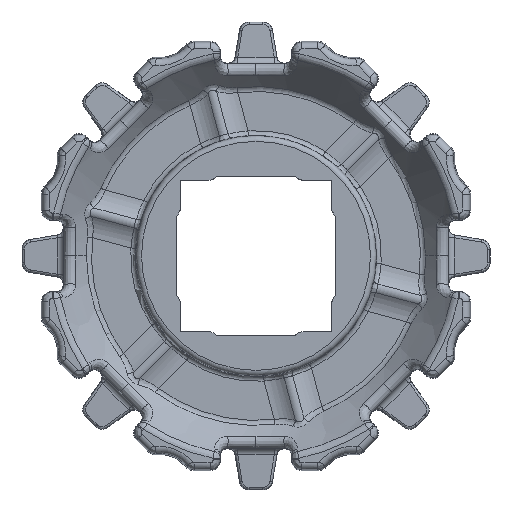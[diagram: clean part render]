
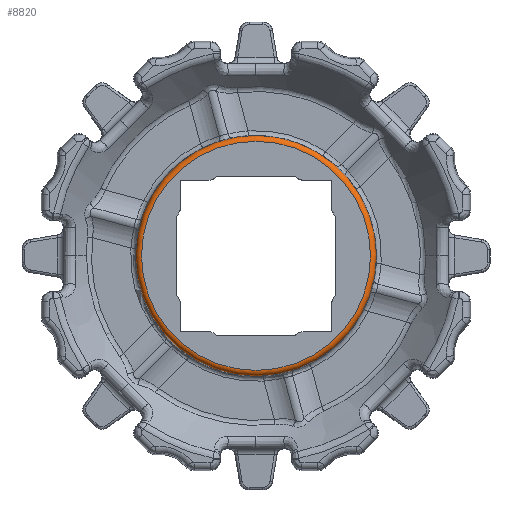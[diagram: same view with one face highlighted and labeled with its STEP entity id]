
A CAD part, top view. The second image highlights one B-rep face of the part: STEP entity #8820.
In plain terms, the highlighted toroidal (fillet/blend) face has major radius 30.642 mm and minor radius 1.5 mm.
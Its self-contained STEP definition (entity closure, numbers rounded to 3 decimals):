
#6727=FACE_BOUND('',#10735,.T.);
#6728=FACE_BOUND('',#10736,.T.);
#7520=TOROIDAL_SURFACE('',#22169,30.642,1.5);
#8820=ADVANCED_FACE('',(#6727,#6728),#7520,.T.);
#10735=EDGE_LOOP('',(#16398,#16399));
#10736=EDGE_LOOP('',(#16400));
#11789=CIRCLE('',#21279,32.142);
#11794=CIRCLE('',#21285,32.142);
#12007=CIRCLE('',#22164,30.642);
#16398=ORIENTED_EDGE('',*,*,#17704,.F.);
#16399=ORIENTED_EDGE('',*,*,#17689,.F.);
#16400=ORIENTED_EDGE('',*,*,#19847,.F.);
#16434=VERTEX_POINT('',#24946);
#16436=VERTEX_POINT('',#24949);
#17651=VERTEX_POINT('',#46875);
#17689=EDGE_CURVE('',#16434,#16436,#11789,.T.);
#17704=EDGE_CURVE('',#16436,#16434,#11794,.T.);
#19847=EDGE_CURVE('',#17651,#17651,#12007,.T.);
#21279=AXIS2_PLACEMENT_3D('',#24948,#22203,#22204);
#21285=AXIS2_PLACEMENT_3D('',#25095,#22216,#22217);
#22164=AXIS2_PLACEMENT_3D('',#46874,#24676,#24677);
#22169=AXIS2_PLACEMENT_3D('',#46881,#24686,#24687);
#22203=DIRECTION('',(0.,0.,-1.));
#22204=DIRECTION('',(1.,0.,0.));
#22216=DIRECTION('',(0.,0.,-1.));
#22217=DIRECTION('',(1.,0.,0.));
#24676=DIRECTION('',(0.,0.,1.));
#24677=DIRECTION('',(1.,0.,0.));
#24686=DIRECTION('',(0.,0.,1.));
#24687=DIRECTION('',(1.,0.,0.));
#24946=CARTESIAN_POINT('',(182.142,0.,15.413));
#24948=CARTESIAN_POINT('',(150.,0.,15.413));
#24949=CARTESIAN_POINT('',(117.858,0.,15.413));
#25095=CARTESIAN_POINT('',(150.,0.,15.413));
#46874=CARTESIAN_POINT('',(150.,0.,16.9));
#46875=CARTESIAN_POINT('',(180.642,0.,16.9));
#46881=CARTESIAN_POINT('',(150.,0.,15.4));
